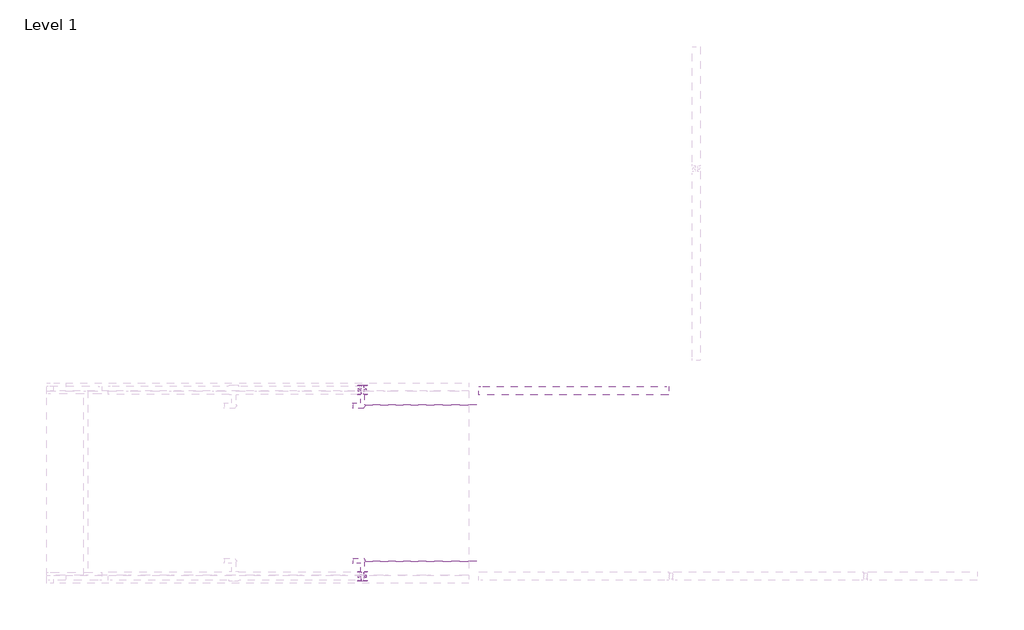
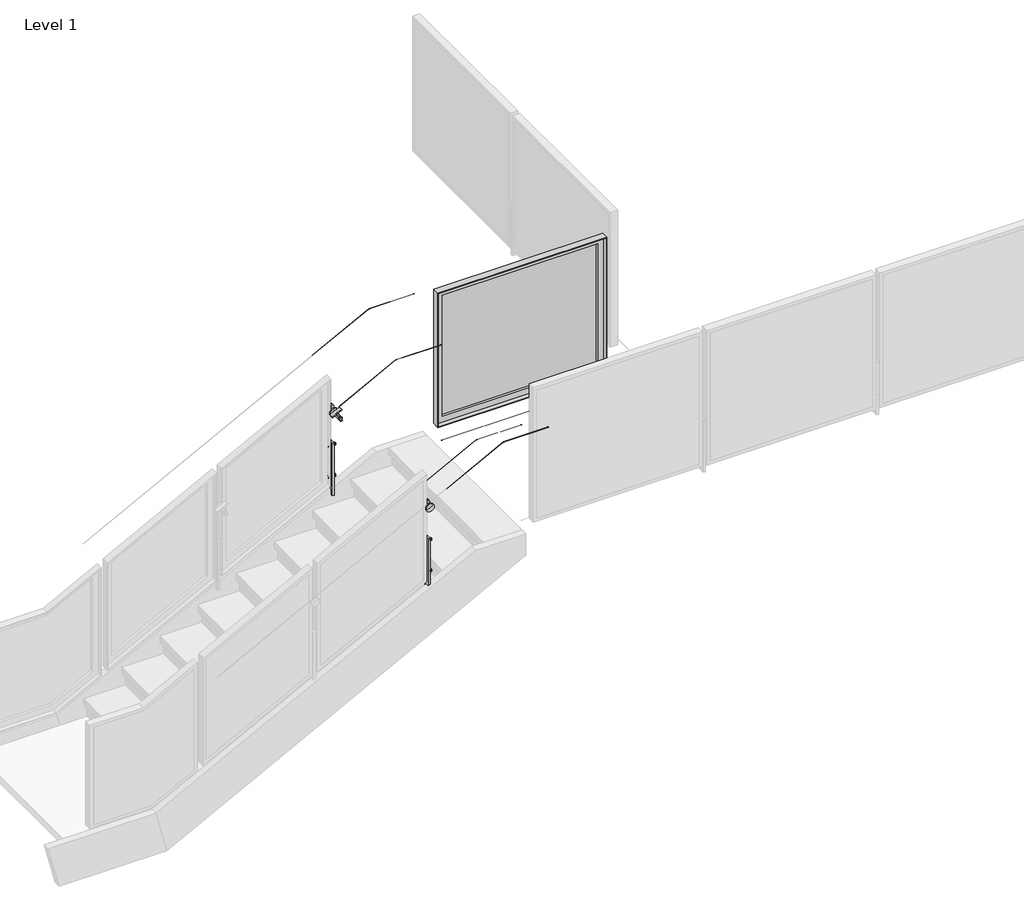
# One storey, part 11 of 37: 3 railings.
"""IFC4 building model written with IfcOpenShell, lengths in millimetres."""

from ifc_helpers import new_model, si_unit, point, frame, frame_2d, origin, place, context, project, spatial, polyline, circle_curve, ellipse_curve, trimmed, segment, composite_curve, outline, extrude, faceted_brep, element, save
from ifc_brep_helpers import plane_surface, cylinder_surface, advanced_brep

model = new_model("IFC4")

# Units and contexts
model_context = context("Model", 3, world=origin())
ifc_project = project(units=[si_unit("LENGTHUNIT", "METRE", prefix="MILLI")], contexts=[model_context])

# Site, building, storey
site = spatial("IfcSite", under=ifc_project)
building = spatial("IfcBuilding", under=site)
storey = spatial("IfcBuildingStorey", under=building, Name="Level 1", Elevation=0.0)

# Railings
placement = place(None, origin())
element("IfcRailing", 1, ObjectType="Metal-Panel-VIVA-FRAME-Slab-Top-Weld-Stairs-Landing-Upper", at=placement, inside=storey, context=model_context, shape_type="SolidModel", body=[
    advanced_brep(
    [(-8167.7837023, -31330.9915116, 3568.8839656), (-8167.7837023, -31330.4835116, 3568.8839656), (-7753.0192861, -31330.9915116, 3784.346), (-7753.0192861, -31330.4835116, 3784.346), (-7421.9837023, -31330.9915116, 3784.346), (-7421.9837023, -31330.4835116, 3784.346)],
    [
        (0, 1, ellipse_curve(frame((-8167.7837023, -31330.7375116, 3568.8839656), z_axis=(-1.0, 0.0, 0.0), x_axis=(0.0, 0.0, -0.9999999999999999)), 0.2862277, 0.254)),
        (1, 0, ellipse_curve(frame((-8167.7837023, -31330.7375116, 3568.8839656), z_axis=(-1.0, 0.0, 0.0), x_axis=(0.0, 0.0, -0.9999999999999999)), 0.2862277, 0.254)),
        (0, 2),
        (2, 3, ellipse_curve(frame((-7753.0192861, -31330.7375116, 3784.346), z_axis=(-0.9714436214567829, 0.0, -0.23727050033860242), x_axis=(0.2372705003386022, 0.0, -0.9714436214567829)), 0.2614665, 0.254)),
        (3, 1),
        (3, 2, ellipse_curve(frame((-7753.0192861, -31330.7375116, 3784.346), z_axis=(-0.9714436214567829, 0.0, -0.23727050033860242), x_axis=(0.2372705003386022, 0.0, -0.9714436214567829)), 0.2614665, 0.254)),
        (4, 5, circle_curve(frame((-7421.9837023, -31330.7375116, 3784.346), z_axis=(1.0, 0.0, 0.0), x_axis=(0.0, 1.0, 0.0)), 0.254)),
        (5, 4, circle_curve(frame((-7421.9837023, -31330.7375116, 3784.346), z_axis=(1.0, 0.0, 0.0), x_axis=(0.0, 1.0, 0.0)), 0.254)),
        (2, 4),
        (5, 3),
    ],
    [
        plane_surface(frame((-8167.7837023, -31330.7375116, 3569.1701933), z_axis=(-1.0, 0.0, 0.0), x_axis=(0.0, 1.0, 0.0))),
        cylinder_surface(frame((-8167.6666108, -31330.7375116, 3568.9447924), z_axis=(-0.8874054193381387, 0.0, -0.4609898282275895), x_axis=(0.0, 1.0, 0.0)), 0.254),
        plane_surface(frame((-7421.9837023, -31330.7375116, 3784.6), z_axis=(1.0, 0.0, 0.0), x_axis=(0.0, 1.0, 0.0))),
        cylinder_surface(frame((-7753.0813244, -31330.7375116, 3784.346), z_axis=(-1.0, 0.0, 0.0), x_axis=(0.0, 1.0, 0.0)), 0.254),
    ],
    [
        (0, [[1, 2]]),
        (1, [[-1, 3, 4, 5]]),
        (1, [[-2, -5, 6, -3]]),
        (2, [[7, 8]]),
        (3, [[-4, 9, -8, 10]]),
        (3, [[-6, -10, -7, -9]]),
    ],
),
    advanced_brep(
    [(-8167.7837023, -31672.7375116, 3759.106753), (-8167.7837023, -31671.7375116, 3759.106753), (-7752.9592018, -31672.7375116, 3974.6), (-7752.9592018, -31671.7375116, 3974.6), (-7421.9837023, -31672.7375116, 3974.6), (-7421.9837023, -31671.7375116, 3974.6)],
    [
        (0, 1, ellipse_curve(frame((-8167.7837023, -31672.2375116, 3759.106753), z_axis=(-1.0, 0.0, 0.0), x_axis=(0.0, 0.0, -0.9999999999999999)), 0.5634403, 0.5)),
        (1, 0, ellipse_curve(frame((-8167.7837023, -31672.2375116, 3759.106753), z_axis=(-1.0, 0.0, 0.0), x_axis=(0.0, 0.0, -0.9999999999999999)), 0.5634403, 0.5)),
        (0, 2),
        (2, 3, ellipse_curve(frame((-7752.9592018, -31672.2375116, 3974.6), z_axis=(-0.9714436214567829, 0.0, -0.23727050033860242), x_axis=(0.2372705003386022, 0.0, -0.9714436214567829)), 0.5146979, 0.5)),
        (3, 1),
        (3, 2, ellipse_curve(frame((-7752.9592018, -31672.2375116, 3974.6), z_axis=(-0.9714436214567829, 0.0, -0.23727050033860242), x_axis=(0.2372705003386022, 0.0, -0.9714436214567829)), 0.5146979, 0.5)),
        (4, 5, circle_curve(frame((-7421.9837023, -31672.2375116, 3974.6), z_axis=(1.0, 0.0, 0.0), x_axis=(0.0, 1.0, 0.0)), 0.5)),
        (5, 4, circle_curve(frame((-7421.9837023, -31672.2375116, 3974.6), z_axis=(1.0, 0.0, 0.0), x_axis=(0.0, 1.0, 0.0)), 0.5)),
        (2, 4),
        (5, 3),
    ],
    [
        plane_surface(frame((-8167.7837023, -31672.2375116, 3759.6701933), z_axis=(-1.0, 0.0, 0.0), x_axis=(0.0, 1.0, 0.0))),
        cylinder_surface(frame((-8167.5532074, -31672.2375116, 3759.2264906), z_axis=(-0.8874054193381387, 0.0, -0.4609898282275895), x_axis=(0.0, 1.0, 0.0)), 0.5),
        plane_surface(frame((-7421.9837023, -31672.2375116, 3975.1), z_axis=(1.0, 0.0, 0.0), x_axis=(0.0, 1.0, 0.0))),
        cylinder_surface(frame((-7753.0813244, -31672.2375116, 3974.6), z_axis=(-1.0, 0.0, 0.0), x_axis=(0.0, 1.0, 0.0)), 0.5),
    ],
    [
        (0, [[1, 2]]),
        (1, [[-1, 3, 4, 5]]),
        (1, [[-2, -5, 6, -3]]),
        (2, [[7, 8]]),
        (3, [[-4, 9, -8, 10]]),
        (3, [[-6, -10, -7, -9]]),
    ],
),
    extrude(outline(composite_curve([segment(polyline([(2.99974, 0.0), (0.0, 0.0)]), True, "CONTINUOUS"), segment(trimmed(circle_curve(frame_2d((-19.0451471, 0.0)), 19.0451471), [point((0.0, 0.0))], [point((-23.6280664, 18.4855208))], True, "CARTESIAN"), True, "CONTINUOUS"), segment(polyline([(-23.6280664, 18.4855208), (-24.3499073, 21.3971159)]), True, "CONTINUOUS"), segment(trimmed(circle_curve(frame_2d((-19.0451471, 0.0)), 22.0448871), [point((-24.3499073, 21.3971159))], [point((2.99974, 0.0))], False, "CARTESIAN"), True, "CONTINUOUS")], self_intersect=False)), frame((-8230.2714127, -31342.3593116, 3518.0219902), z_axis=(0.8874054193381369, 0.0, 0.4609898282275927), x_axis=(0.2840545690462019, -0.7876022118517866, -0.5468050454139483)), (0.0, 0.0, 1.0), 79.1184357),
    advanced_brep(
    [(-8155.3865246, -31327.3593116, 3459.6822264), (-8155.3865246, -31334.5030616, 3459.6822264), (-8155.3865246, -31320.2155616, 3459.6822264), (-8191.2457709, -31334.5030616, 3528.7112754), (-8191.2457709, -31327.3593116, 3528.7112754), (-8191.2457709, -31320.2155616, 3528.7112754)],
    [
        (0, 1),
        (1, 2, circle_curve(frame((-8155.3865246, -31327.3593116, 3459.6822264), z_axis=(0.4609898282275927, 0.0, -0.887405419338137), x_axis=(0.0, 1.0, 0.0)), 7.14375)),
        (2, 0),
        (3, 4),
        (4, 5),
        (5, 3, circle_curve(frame((-8191.2457709, -31327.3593116, 3528.7112754), z_axis=(-0.4609898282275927, 0.0, 0.887405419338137), x_axis=(0.0, 1.0, 0.0)), 7.14375)),
        (2, 1, circle_curve(frame((-8155.3865246, -31327.3593116, 3459.6822264), z_axis=(0.4609898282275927, 0.0, -0.887405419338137), x_axis=(0.0, 1.0, 0.0)), 7.14375)),
        (3, 5, circle_curve(frame((-8191.2457709, -31327.3593116, 3528.7112754), z_axis=(-0.4609898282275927, 0.0, 0.887405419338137), x_axis=(0.0, 1.0, 0.0)), 7.14375)),
        (1, 3),
        (5, 2),
    ],
    [
        plane_surface(frame((-8155.3865246, -31327.3593116, 3459.6822264), z_axis=(0.4609898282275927, 0.0, -0.887405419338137), x_axis=(0.0, 1.0, 0.0))),
        plane_surface(frame((-8191.2457709, -31327.3593116, 3528.7112754), z_axis=(-0.4609898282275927, 0.0, 0.887405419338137), x_axis=(0.0, 1.0, 0.0))),
        cylinder_surface(frame((-8038.4323248, -31327.3593116, 3234.5453916), z_axis=(0.4609898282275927, 0.0, -0.887405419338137), x_axis=(0.0, 1.0, 0.0)), 7.14375),
    ],
    [
        (0, [[1, 2, 3]]),
        (1, [[4, 5, 6]]),
        (0, [[-3, 7, -1]]),
        (1, [[-5, -4, 8]]),
        (2, [[9, -6, 10, -2]]),
        (2, [[-10, -8, -9, -7]]),
    ],
),
    advanced_brep(
    [(-8194.5500682, -31454.3593116, 3469.6421876), (-8173.4187267, -31454.3593116, 3480.6195079), (-8162.1486779, -31454.3593116, 3486.4740787), (-8141.0173363, -31454.3593116, 3497.451399), (-8194.5500682, -31462.2968116, 3469.6421876), (-8141.0173363, -31462.2968116, 3497.451399), (-8194.5500682, -31395.6218116, 3469.6421876), (-8179.0537511, -31395.6218116, 3477.6922225), (-8156.5136534, -31395.6218116, 3489.4013641), (-8141.0173363, -31395.6218116, 3497.451399), (-8194.5500682, -31403.5593116, 3469.6421876), (-8141.0173363, -31403.5593116, 3497.451399), (-8167.7837023, -31462.2968116, 3483.5467933), (-8179.0537511, -31316.2468116, 3477.6922225), (-8167.7837023, -31316.2468116, 3483.5467933), (-8156.5136534, -31316.2468116, 3489.4013641), (-8173.4187267, -31403.5593116, 3480.6195079), (-8162.1486779, -31403.5593116, 3486.4740787)],
    [
        (0, 1),
        (1, 2, circle_curve(frame((-8167.7837023, -31454.3593116, 3483.5467933), z_axis=(0.0, -1.0, 0.0), x_axis=(0.8874054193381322, 0.0, 0.4609898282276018)), 6.35)),
        (2, 3),
        (3, 0, circle_curve(frame((-8167.7837023, -31454.3593116, 3483.5467933), z_axis=(0.0, 1.0, 0.0), x_axis=(0.8874054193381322, 0.0, 0.4609898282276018)), 30.1625)),
        (4, 0),
        (3, 5),
        (5, 4, circle_curve(frame((-8167.7837023, -31462.2968116, 3483.5467933), z_axis=(0.0, 1.0, 0.0), x_axis=(0.8874054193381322, 0.0, 0.4609898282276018)), 30.1625)),
        (6, 7),
        (7, 8, circle_curve(frame((-8167.7837023, -31395.6218116, 3483.5467933), z_axis=(0.0, -1.0, 0.0), x_axis=(0.8874054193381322, 0.0, 0.4609898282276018)), 12.7)),
        (8, 9),
        (9, 6, circle_curve(frame((-8167.7837023, -31395.6218116, 3483.5467933), z_axis=(0.0, 1.0, 0.0), x_axis=(0.8874054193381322, 0.0, 0.4609898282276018)), 30.1625)),
        (10, 6),
        (9, 11),
        (11, 10, circle_curve(frame((-8167.7837023, -31403.5593116, 3483.5467933), z_axis=(0.0, 1.0, 0.0), x_axis=(0.8874054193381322, 0.0, 0.4609898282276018)), 30.1625)),
        (3, 0, circle_curve(frame((-8167.7837023, -31454.3593116, 3483.5467933), z_axis=(0.0, -1.0, 0.0), x_axis=(0.8874054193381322, 0.0, 0.4609898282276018)), 30.1625)),
        (4, 5, circle_curve(frame((-8167.7837023, -31462.2968116, 3483.5467933), z_axis=(0.0, 1.0, 0.0), x_axis=(0.8874054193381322, 0.0, 0.4609898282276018)), 30.1625)),
        (12, 4),
        (5, 12),
        (13, 14),
        (14, 15),
        (15, 13, circle_curve(frame((-8167.7837023, -31316.2468116, 3483.5467933), z_axis=(0.0, 1.0, 0.0), x_axis=(0.8874054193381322, 0.0, 0.4609898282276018)), 12.7)),
        (13, 15, circle_curve(frame((-8167.7837023, -31316.2468116, 3483.5467933), z_axis=(0.0, 1.0, 0.0), x_axis=(0.8874054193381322, 0.0, 0.4609898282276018)), 12.7)),
        (7, 13),
        (15, 8),
        (7, 8, circle_curve(frame((-8167.7837023, -31395.6218116, 3483.5467933), z_axis=(0.0, 1.0, 0.0), x_axis=(0.8874054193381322, 0.0, 0.4609898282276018)), 12.7)),
        (6, 9, circle_curve(frame((-8167.7837023, -31395.6218116, 3483.5467933), z_axis=(0.0, 1.0, 0.0), x_axis=(0.8874054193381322, 0.0, 0.4609898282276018)), 30.1625)),
        (10, 11, circle_curve(frame((-8167.7837023, -31403.5593116, 3483.5467933), z_axis=(0.0, 1.0, 0.0), x_axis=(0.8874054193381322, 0.0, 0.4609898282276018)), 30.1625)),
        (16, 10),
        (11, 17),
        (17, 16, circle_curve(frame((-8167.7837023, -31403.5593116, 3483.5467933), z_axis=(0.0, 1.0, 0.0), x_axis=(0.8874054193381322, 0.0, 0.4609898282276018)), 6.35)),
        (16, 17, circle_curve(frame((-8167.7837023, -31403.5593116, 3483.5467933), z_axis=(0.0, 1.0, 0.0), x_axis=(0.8874054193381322, 0.0, 0.4609898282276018)), 6.35)),
        (1, 16),
        (17, 2),
        (1, 2, circle_curve(frame((-8167.7837023, -31454.3593116, 3483.5467933), z_axis=(0.0, 1.0, 0.0), x_axis=(0.8874054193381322, 0.0, 0.4609898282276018)), 6.35)),
    ],
    [
        plane_surface(frame((-8167.7837023, -31454.3593116, 3483.5467933), z_axis=(0.0, 1.0, 0.0), x_axis=(0.8874054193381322, 0.0, 0.4609898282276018))),
        cylinder_surface(frame((-8167.7837023, -32927.5593116, 3483.5467933), z_axis=(0.0, -1.0, 0.0), x_axis=(0.8874054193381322, 0.0, 0.4609898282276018)), 30.1625),
        plane_surface(frame((-8167.7837023, -31395.6218116, 3483.5467933), z_axis=(0.0, 1.0, 0.0), x_axis=(0.8874054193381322, 0.0, 0.4609898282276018))),
        plane_surface(frame((-8167.7837023, -31462.2968116, 3483.5467933), z_axis=(0.0, -1.0, 0.0), x_axis=(0.8874054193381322, 0.0, 0.4609898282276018))),
        plane_surface(frame((-8167.7837023, -31316.2468116, 3483.5467933), z_axis=(0.0, 1.0, 0.0), x_axis=(0.8874054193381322, 0.0, 0.4609898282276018))),
        cylinder_surface(frame((-8167.7837023, -32927.5593116, 3483.5467933), z_axis=(0.0, -1.0, 0.0), x_axis=(0.8874054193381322, 0.0, 0.4609898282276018)), 12.7),
        plane_surface(frame((-8167.7837023, -31403.5593116, 3483.5467933), z_axis=(0.0, -1.0, 0.0), x_axis=(0.8874054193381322, 0.0, 0.4609898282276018))),
        cylinder_surface(frame((-8167.7837023, -32927.5593116, 3483.5467933), z_axis=(0.0, -1.0, 0.0), x_axis=(0.8874054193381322, 0.0, 0.4609898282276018)), 6.35),
    ],
    [
        (0, [[1, 2, 3, 4]]),
        (1, [[5, -4, 6, 7]]),
        (2, [[8, 9, 10, 11]]),
        (1, [[12, -11, 13, 14]]),
        (1, [[-6, 15, -5, 16]]),
        (3, [[17, -7, 18]]),
        (3, [[-18, -16, -17]]),
        (4, [[19, 20, 21]]),
        (4, [[-20, -19, 22]]),
        (5, [[23, -21, 24, -9]]),
        (5, [[-24, -22, -23, 25]]),
        (2, [[-10, -25, -8, 26]]),
        (1, [[-13, -26, -12, 27]]),
        (6, [[28, -14, 29, 30]]),
        (6, [[-29, -27, -28, 31]]),
        (7, [[32, -30, 33, -2]]),
        (7, [[-33, -31, -32, 34]]),
        (0, [[-3, -34, -1, -15]]),
    ],
),
    advanced_brep(
    [(-8193.9711023, -31428.9593116, 2962.7197933), (-8193.9711023, -31428.9593116, 2981.8205933), (-8193.9711023, -31428.9593116, 2972.2701933), (-8189.1959023, -31428.9593116, 2962.7197933), (-8189.1959023, -31428.9593116, 2981.8205933), (-8189.1959023, -31428.9593116, 2967.4949933), (-8189.1959023, -31428.9593116, 2977.0453933), (-8146.3715023, -31428.9593116, 2967.4949933), (-8146.3715023, -31428.9593116, 2977.0453933), (-8146.3715023, -31428.9593116, 2962.7197933), (-8146.3715023, -31428.9593116, 2981.8205933), (-8141.5963023, -31428.9593116, 2962.7197933), (-8141.5963023, -31428.9593116, 2981.8205933), (-8141.5963023, -31428.9593116, 2972.2701933)],
    [
        (0, 1, circle_curve(frame((-8193.9711023, -31428.9593116, 2972.2701933), z_axis=(-1.0, 0.0, 0.0), x_axis=(0.0, 0.0, 1.0)), 9.5504)),
        (1, 2),
        (2, 0),
        (1, 0, circle_curve(frame((-8193.9711023, -31428.9593116, 2972.2701933), z_axis=(-1.0, 0.0, 0.0), x_axis=(0.0, 0.0, 1.0)), 9.5504)),
        (3, 4, circle_curve(frame((-8189.1959023, -31428.9593116, 2972.2701933), z_axis=(-1.0, 0.0, 0.0), x_axis=(0.0, 0.0, 1.0)), 9.5504)),
        (4, 1),
        (0, 3),
        (4, 3, circle_curve(frame((-8189.1959023, -31428.9593116, 2972.2701933), z_axis=(-1.0, 0.0, 0.0), x_axis=(0.0, 0.0, 1.0)), 9.5504)),
        (5, 6, circle_curve(frame((-8189.1959023, -31428.9593116, 2972.2701933), z_axis=(-1.0, 0.0, 0.0), x_axis=(0.0, 0.0, 1.0)), 4.7752)),
        (6, 4),
        (3, 5),
        (6, 5, circle_curve(frame((-8189.1959023, -31428.9593116, 2972.2701933), z_axis=(-1.0, 0.0, 0.0), x_axis=(0.0, 0.0, 1.0)), 4.7752)),
        (7, 8, circle_curve(frame((-8146.3715023, -31428.9593116, 2972.2701933), z_axis=(-1.0, 0.0, 0.0), x_axis=(0.0, 0.0, 1.0)), 4.7752)),
        (8, 6),
        (5, 7),
        (8, 7, circle_curve(frame((-8146.3715023, -31428.9593116, 2972.2701933), z_axis=(-1.0, 0.0, 0.0), x_axis=(0.0, 0.0, 1.0)), 4.7752)),
        (9, 10, circle_curve(frame((-8146.3715023, -31428.9593116, 2972.2701933), z_axis=(-1.0, 0.0, 0.0), x_axis=(0.0, 0.0, 1.0)), 9.5504)),
        (10, 8),
        (7, 9),
        (10, 9, circle_curve(frame((-8146.3715023, -31428.9593116, 2972.2701933), z_axis=(-1.0, 0.0, 0.0), x_axis=(0.0, 0.0, 1.0)), 9.5504)),
        (11, 12, circle_curve(frame((-8141.5963023, -31428.9593116, 2972.2701933), z_axis=(-1.0, 0.0, 0.0), x_axis=(0.0, 0.0, 1.0)), 9.5504)),
        (12, 10),
        (9, 11),
        (12, 11, circle_curve(frame((-8141.5963023, -31428.9593116, 2972.2701933), z_axis=(-1.0, 0.0, 0.0), x_axis=(0.0, 0.0, 1.0)), 9.5504)),
        (13, 12),
        (11, 13),
    ],
    [
        plane_surface(frame((-8193.9711023, -31428.9593116, 2972.2701933), z_axis=(-1.0, 0.0, 0.0), x_axis=(0.0, 0.0, 1.0))),
        cylinder_surface(frame((-11585.5514594, -31428.9593116, 2972.2701933), z_axis=(1.0, 0.0, 0.0), x_axis=(0.0, 0.0, 1.0)), 9.5504),
        plane_surface(frame((-8189.1959023, -31428.9593116, 2972.2701933), z_axis=(1.0, 0.0, 0.0), x_axis=(0.0, 0.0, 1.0))),
        cylinder_surface(frame((-11585.5514594, -31428.9593116, 2972.2701933), z_axis=(1.0, 0.0, 0.0), x_axis=(0.0, 0.0, 1.0)), 4.7752),
        plane_surface(frame((-8146.3715023, -31428.9593116, 2972.2701933), z_axis=(-1.0, 0.0, 0.0), x_axis=(0.0, 0.0, 1.0))),
        plane_surface(frame((-8141.5963023, -31428.9593116, 2972.2701933), z_axis=(1.0, 0.0, 0.0), x_axis=(0.0, 0.0, 1.0))),
    ],
    [
        (0, [[1, 2, 3]]),
        (0, [[4, -3, -2]]),
        (1, [[5, 6, -1, 7]]),
        (1, [[8, -7, -4, -6]]),
        (2, [[9, 10, -5, 11]]),
        (2, [[12, -11, -8, -10]]),
        (3, [[13, 14, -9, 15]]),
        (3, [[16, -15, -12, -14]]),
        (4, [[17, 18, -13, 19]]),
        (4, [[20, -19, -16, -18]]),
        (1, [[21, 22, -17, 23]]),
        (1, [[24, -23, -20, -22]]),
        (5, [[25, -21, 26]]),
        (5, [[-26, -24, -25]]),
    ],
),
    advanced_brep(
    [(-8193.9711023, -31428.9593116, 3204.0197933), (-8193.9711023, -31428.9593116, 3223.1205933), (-8193.9711023, -31428.9593116, 3213.5701933), (-8189.1959023, -31428.9593116, 3204.0197933), (-8189.1959023, -31428.9593116, 3223.1205933), (-8189.1959023, -31428.9593116, 3208.7949933), (-8189.1959023, -31428.9593116, 3218.3453933), (-8146.3715023, -31428.9593116, 3208.7949933), (-8146.3715023, -31428.9593116, 3218.3453933), (-8146.3715023, -31428.9593116, 3204.0197933), (-8146.3715023, -31428.9593116, 3223.1205933), (-8141.5963023, -31428.9593116, 3204.0197933), (-8141.5963023, -31428.9593116, 3223.1205933), (-8141.5963023, -31428.9593116, 3213.5701933)],
    [
        (0, 1, circle_curve(frame((-8193.9711023, -31428.9593116, 3213.5701933), z_axis=(-1.0, 0.0, 0.0), x_axis=(0.0, 0.0, 1.0)), 9.5504)),
        (1, 2),
        (2, 0),
        (1, 0, circle_curve(frame((-8193.9711023, -31428.9593116, 3213.5701933), z_axis=(-1.0, 0.0, 0.0), x_axis=(0.0, 0.0, 1.0)), 9.5504)),
        (3, 4, circle_curve(frame((-8189.1959023, -31428.9593116, 3213.5701933), z_axis=(-1.0, 0.0, 0.0), x_axis=(0.0, 0.0, 1.0)), 9.5504)),
        (4, 1),
        (0, 3),
        (4, 3, circle_curve(frame((-8189.1959023, -31428.9593116, 3213.5701933), z_axis=(-1.0, 0.0, 0.0), x_axis=(0.0, 0.0, 1.0)), 9.5504)),
        (5, 6, circle_curve(frame((-8189.1959023, -31428.9593116, 3213.5701933), z_axis=(-1.0, 0.0, 0.0), x_axis=(0.0, 0.0, 1.0)), 4.7752)),
        (6, 4),
        (3, 5),
        (6, 5, circle_curve(frame((-8189.1959023, -31428.9593116, 3213.5701933), z_axis=(-1.0, 0.0, 0.0), x_axis=(0.0, 0.0, 1.0)), 4.7752)),
        (7, 8, circle_curve(frame((-8146.3715023, -31428.9593116, 3213.5701933), z_axis=(-1.0, 0.0, 0.0), x_axis=(0.0, 0.0, 1.0)), 4.7752)),
        (8, 6),
        (5, 7),
        (8, 7, circle_curve(frame((-8146.3715023, -31428.9593116, 3213.5701933), z_axis=(-1.0, 0.0, 0.0), x_axis=(0.0, 0.0, 1.0)), 4.7752)),
        (9, 10, circle_curve(frame((-8146.3715023, -31428.9593116, 3213.5701933), z_axis=(-1.0, 0.0, 0.0), x_axis=(0.0, 0.0, 1.0)), 9.5504)),
        (10, 8),
        (7, 9),
        (10, 9, circle_curve(frame((-8146.3715023, -31428.9593116, 3213.5701933), z_axis=(-1.0, 0.0, 0.0), x_axis=(0.0, 0.0, 1.0)), 9.5504)),
        (11, 12, circle_curve(frame((-8141.5963023, -31428.9593116, 3213.5701933), z_axis=(-1.0, 0.0, 0.0), x_axis=(0.0, 0.0, 1.0)), 9.5504)),
        (12, 10),
        (9, 11),
        (12, 11, circle_curve(frame((-8141.5963023, -31428.9593116, 3213.5701933), z_axis=(-1.0, 0.0, 0.0), x_axis=(0.0, 0.0, 1.0)), 9.5504)),
        (13, 12),
        (11, 13),
    ],
    [
        plane_surface(frame((-8193.9711023, -31428.9593116, 3213.5701933), z_axis=(-1.0, 0.0, 0.0), x_axis=(0.0, 0.0, 1.0))),
        cylinder_surface(frame((-11585.5514594, -31428.9593116, 3213.5701933), z_axis=(1.0, 0.0, 0.0), x_axis=(0.0, 0.0, 1.0)), 9.5504),
        plane_surface(frame((-8189.1959023, -31428.9593116, 3213.5701933), z_axis=(1.0, 0.0, 0.0), x_axis=(0.0, 0.0, 1.0))),
        cylinder_surface(frame((-11585.5514594, -31428.9593116, 3213.5701933), z_axis=(1.0, 0.0, 0.0), x_axis=(0.0, 0.0, 1.0)), 4.7752),
        plane_surface(frame((-8146.3715023, -31428.9593116, 3213.5701933), z_axis=(-1.0, 0.0, 0.0), x_axis=(0.0, 0.0, 1.0))),
        plane_surface(frame((-8141.5963023, -31428.9593116, 3213.5701933), z_axis=(1.0, 0.0, 0.0), x_axis=(0.0, 0.0, 1.0))),
    ],
    [
        (0, [[1, 2, 3]]),
        (0, [[4, -3, -2]]),
        (1, [[5, 6, -1, 7]]),
        (1, [[8, -7, -4, -6]]),
        (2, [[9, 10, -5, 11]]),
        (2, [[12, -11, -8, -10]]),
        (3, [[13, 14, -9, 15]]),
        (3, [[16, -15, -12, -14]]),
        (4, [[17, 18, -13, 19]]),
        (4, [[20, -19, -16, -18]]),
        (1, [[21, 22, -17, 23]]),
        (1, [[24, -23, -20, -22]]),
        (5, [[25, -21, 26]]),
        (5, [[-26, -24, -25]]),
    ],
),
    extrude(outline(polyline([(-8175.7232939, -31406.7343116), (-8159.8441106, -31406.7343116), (-8159.8441106, -31451.1843116), (-8175.7232939, -31451.1843116), (-8175.7232939, -31406.7343116)])), frame((0.0, 0.0, 2832.5701933), z_axis=(0.0, 0.0, 1.0), x_axis=(1.0, 0.0, 0.0)), (0.0, 0.0, 1.0), 406.4),
])
element("IfcRailing", 2, ObjectType="Metal-Panel-VIVA-FRAME-Slab-Top-Weld-Stairs-Landing-Upper", at=placement, inside=storey, context=model_context, shape_type="SolidModel", body=[
    advanced_brep(
    [(-8167.7837023, -30310.0032776, 3568.8839656), (-8167.7837023, -30309.4952776, 3568.8839656), (-7753.0192861, -30310.0032776, 3784.346), (-7753.0192861, -30309.4952776, 3784.346), (-7421.9837023, -30310.0032776, 3784.346), (-7421.9837023, -30309.4952776, 3784.346)],
    [
        (0, 1, ellipse_curve(frame((-8167.7837023, -30309.7492776, 3568.8839656), z_axis=(-1.0, 0.0, 0.0), x_axis=(0.0, 0.0, -0.9999999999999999)), 0.2862277, 0.254)),
        (1, 0, ellipse_curve(frame((-8167.7837023, -30309.7492776, 3568.8839656), z_axis=(-1.0, 0.0, 0.0), x_axis=(0.0, 0.0, -0.9999999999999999)), 0.2862277, 0.254)),
        (0, 2),
        (2, 3, ellipse_curve(frame((-7753.0192861, -30309.7492776, 3784.346), z_axis=(-0.9714436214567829, 0.0, -0.23727050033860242), x_axis=(0.2372705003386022, 0.0, -0.9714436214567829)), 0.2614665, 0.254)),
        (3, 1),
        (3, 2, ellipse_curve(frame((-7753.0192861, -30309.7492776, 3784.346), z_axis=(-0.9714436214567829, 0.0, -0.23727050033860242), x_axis=(0.2372705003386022, 0.0, -0.9714436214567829)), 0.2614665, 0.254)),
        (4, 5, circle_curve(frame((-7421.9837023, -30309.7492776, 3784.346), z_axis=(1.0, 0.0, 0.0), x_axis=(0.0, 1.0, 0.0)), 0.254)),
        (5, 4, circle_curve(frame((-7421.9837023, -30309.7492776, 3784.346), z_axis=(1.0, 0.0, 0.0), x_axis=(0.0, 1.0, 0.0)), 0.254)),
        (2, 4),
        (5, 3),
    ],
    [
        plane_surface(frame((-8167.7837023, -30309.7492776, 3569.1701933), z_axis=(-1.0, 0.0, 0.0), x_axis=(0.0, 1.0, 0.0))),
        cylinder_surface(frame((-8167.6666108, -30309.7492776, 3568.9447924), z_axis=(-0.8874054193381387, 0.0, -0.4609898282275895), x_axis=(0.0, 1.0, 0.0)), 0.254),
        plane_surface(frame((-7421.9837023, -30309.7492776, 3784.6), z_axis=(1.0, 0.0, 0.0), x_axis=(0.0, 1.0, 0.0))),
        cylinder_surface(frame((-7753.0813244, -30309.7492776, 3784.346), z_axis=(-1.0, 0.0, 0.0), x_axis=(0.0, 1.0, 0.0)), 0.254),
    ],
    [
        (0, [[1, 2]]),
        (1, [[-1, 3, 4, 5]]),
        (1, [[-2, -5, 6, -3]]),
        (2, [[7, 8]]),
        (3, [[-4, 9, -8, 10]]),
        (3, [[-6, -10, -7, -9]]),
    ],
),
    advanced_brep(
    [(-8167.7837023, -29968.7492776, 3759.106753), (-8167.7837023, -29967.7492776, 3759.106753), (-7752.9592018, -29968.7492776, 3974.6), (-7752.9592018, -29967.7492776, 3974.6), (-7421.9837023, -29968.7492776, 3974.6), (-7421.9837023, -29967.7492776, 3974.6)],
    [
        (0, 1, ellipse_curve(frame((-8167.7837023, -29968.2492776, 3759.106753), z_axis=(-1.0, 0.0, 0.0), x_axis=(0.0, 0.0, -0.9999999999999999)), 0.5634403, 0.5)),
        (1, 0, ellipse_curve(frame((-8167.7837023, -29968.2492776, 3759.106753), z_axis=(-1.0, 0.0, 0.0), x_axis=(0.0, 0.0, -0.9999999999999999)), 0.5634403, 0.5)),
        (0, 2),
        (2, 3, ellipse_curve(frame((-7752.9592018, -29968.2492776, 3974.6), z_axis=(-0.9714436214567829, 0.0, -0.23727050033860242), x_axis=(0.2372705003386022, 0.0, -0.9714436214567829)), 0.5146979, 0.5)),
        (3, 1),
        (3, 2, ellipse_curve(frame((-7752.9592018, -29968.2492776, 3974.6), z_axis=(-0.9714436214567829, 0.0, -0.23727050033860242), x_axis=(0.2372705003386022, 0.0, -0.9714436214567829)), 0.5146979, 0.5)),
        (4, 5, circle_curve(frame((-7421.9837023, -29968.2492776, 3974.6), z_axis=(1.0, 0.0, 0.0), x_axis=(0.0, 1.0, 0.0)), 0.5)),
        (5, 4, circle_curve(frame((-7421.9837023, -29968.2492776, 3974.6), z_axis=(1.0, 0.0, 0.0), x_axis=(0.0, 1.0, 0.0)), 0.5)),
        (2, 4),
        (5, 3),
    ],
    [
        plane_surface(frame((-8167.7837023, -29968.2492776, 3759.6701933), z_axis=(-1.0, 0.0, 0.0), x_axis=(0.0, 1.0, 0.0))),
        cylinder_surface(frame((-8167.5532074, -29968.2492776, 3759.2264906), z_axis=(-0.8874054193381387, 0.0, -0.4609898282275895), x_axis=(0.0, 1.0, 0.0)), 0.5),
        plane_surface(frame((-7421.9837023, -29968.2492776, 3975.1), z_axis=(1.0, 0.0, 0.0), x_axis=(0.0, 1.0, 0.0))),
        cylinder_surface(frame((-7753.0813244, -29968.2492776, 3974.6), z_axis=(-1.0, 0.0, 0.0), x_axis=(0.0, 1.0, 0.0)), 0.5),
    ],
    [
        (0, [[1, 2]]),
        (1, [[-1, 3, 4, 5]]),
        (1, [[-2, -5, 6, -3]]),
        (2, [[7, 8]]),
        (3, [[-4, 9, -8, 10]]),
        (3, [[-6, -10, -7, -9]]),
    ],
),
    extrude(outline(composite_curve([segment(trimmed(circle_curve(frame_2d((-19.0451471, 0.0)), 22.0448871), [point((2.99974, 0.0))], [point((-24.3499073, -21.3971159))], False, "CARTESIAN"), True, "CONTINUOUS"), segment(polyline([(-24.3499073, -21.3971159), (-23.6280664, -18.4855208)]), True, "CONTINUOUS"), segment(trimmed(circle_curve(frame_2d((-19.0451471, 0.0)), 19.0451471), [point((-23.6280664, -18.4855208))], [point((0.0, 0.0))], True, "CARTESIAN"), True, "CONTINUOUS"), segment(polyline([(0.0, 0.0), (2.99974, 0.0)]), True, "CONTINUOUS")], self_intersect=False)), frame((-8230.2714127, -30298.1274776, 3518.0219902), z_axis=(0.8874054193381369, 0.0, 0.4609898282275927), x_axis=(0.2840545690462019, 0.7876022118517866, -0.5468050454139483)), (0.0, 0.0, 1.0), 79.1184357),
    advanced_brep(
    [(-8155.3865246, -30313.1274776, 3459.6822264), (-8155.3865246, -30320.2712276, 3459.6822264), (-8155.3865246, -30305.9837276, 3459.6822264), (-8191.2457709, -30305.9837276, 3528.7112754), (-8191.2457709, -30320.2712276, 3528.7112754), (-8191.2457709, -30313.1274776, 3528.7112754)],
    [
        (0, 1),
        (1, 2, circle_curve(frame((-8155.3865246, -30313.1274776, 3459.6822264), z_axis=(0.4609898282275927, 0.0, -0.887405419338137), x_axis=(0.0, -1.0, 0.0)), 7.14375)),
        (2, 0),
        (3, 4, circle_curve(frame((-8191.2457709, -30313.1274776, 3528.7112754), z_axis=(-0.4609898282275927, 0.0, 0.887405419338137), x_axis=(0.0, -1.0, 0.0)), 7.14375)),
        (4, 5),
        (5, 3),
        (2, 1, circle_curve(frame((-8155.3865246, -30313.1274776, 3459.6822264), z_axis=(0.4609898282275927, 0.0, -0.887405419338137), x_axis=(0.0, -1.0, 0.0)), 7.14375)),
        (4, 3, circle_curve(frame((-8191.2457709, -30313.1274776, 3528.7112754), z_axis=(-0.4609898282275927, 0.0, 0.887405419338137), x_axis=(0.0, -1.0, 0.0)), 7.14375)),
        (1, 4),
        (3, 2),
    ],
    [
        plane_surface(frame((-8155.3865246, -30313.1274776, 3459.6822264), z_axis=(0.4609898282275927, 0.0, -0.887405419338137), x_axis=(0.0, -1.0, 0.0))),
        plane_surface(frame((-8191.2457709, -30313.1274776, 3528.7112754), z_axis=(-0.4609898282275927, 0.0, 0.887405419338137), x_axis=(0.0, -1.0, 0.0))),
        cylinder_surface(frame((-8038.4323248, -30313.1274776, 3234.5453916), z_axis=(0.4609898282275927, 0.0, -0.887405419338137), x_axis=(0.0, -1.0, 0.0)), 7.14375),
    ],
    [
        (0, [[1, 2, 3]]),
        (1, [[4, 5, 6]]),
        (0, [[-3, 7, -1]]),
        (1, [[8, -6, -5]]),
        (2, [[-2, 9, -4, 10]]),
        (2, [[-7, -10, -8, -9]]),
    ],
),
    advanced_brep(
    [(-8194.5500682, -30186.1274776, 3469.6421876), (-8141.0173363, -30186.1274776, 3497.451399), (-8162.1486779, -30186.1274776, 3486.4740787), (-8173.4187267, -30186.1274776, 3480.6195079), (-8194.5500682, -30178.1899776, 3469.6421876), (-8141.0173363, -30178.1899776, 3497.451399), (-8194.5500682, -30244.8649776, 3469.6421876), (-8141.0173363, -30244.8649776, 3497.451399), (-8156.5136534, -30244.8649776, 3489.4013641), (-8179.0537511, -30244.8649776, 3477.6922225), (-8194.5500682, -30236.9274776, 3469.6421876), (-8141.0173363, -30236.9274776, 3497.451399), (-8167.7837023, -30178.1899776, 3483.5467933), (-8179.0537511, -30324.2399776, 3477.6922225), (-8156.5136534, -30324.2399776, 3489.4013641), (-8167.7837023, -30324.2399776, 3483.5467933), (-8173.4187267, -30236.9274776, 3480.6195079), (-8162.1486779, -30236.9274776, 3486.4740787)],
    [
        (0, 1, circle_curve(frame((-8167.7837023, -30186.1274776, 3483.5467933), z_axis=(0.0, -1.0, 0.0), x_axis=(0.8874054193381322, 0.0, 0.4609898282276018)), 30.1625)),
        (1, 2),
        (2, 3, circle_curve(frame((-8167.7837023, -30186.1274776, 3483.5467933), z_axis=(0.0, 1.0, 0.0), x_axis=(0.8874054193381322, 0.0, 0.4609898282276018)), 6.35)),
        (3, 0),
        (4, 5, circle_curve(frame((-8167.7837023, -30178.1899776, 3483.5467933), z_axis=(0.0, -1.0, 0.0), x_axis=(0.8874054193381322, 0.0, 0.4609898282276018)), 30.1625)),
        (5, 1),
        (0, 4),
        (6, 7, circle_curve(frame((-8167.7837023, -30244.8649776, 3483.5467933), z_axis=(0.0, -1.0, 0.0), x_axis=(0.8874054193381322, 0.0, 0.4609898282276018)), 30.1625)),
        (7, 8),
        (8, 9, circle_curve(frame((-8167.7837023, -30244.8649776, 3483.5467933), z_axis=(0.0, 1.0, 0.0), x_axis=(0.8874054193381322, 0.0, 0.4609898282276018)), 12.7)),
        (9, 6),
        (10, 11, circle_curve(frame((-8167.7837023, -30236.9274776, 3483.5467933), z_axis=(0.0, -1.0, 0.0), x_axis=(0.8874054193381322, 0.0, 0.4609898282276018)), 30.1625)),
        (11, 7),
        (6, 10),
        (5, 4, circle_curve(frame((-8167.7837023, -30178.1899776, 3483.5467933), z_axis=(0.0, -1.0, 0.0), x_axis=(0.8874054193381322, 0.0, 0.4609898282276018)), 30.1625)),
        (0, 1, circle_curve(frame((-8167.7837023, -30186.1274776, 3483.5467933), z_axis=(0.0, 1.0, 0.0), x_axis=(0.8874054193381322, 0.0, 0.4609898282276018)), 30.1625)),
        (12, 5),
        (4, 12),
        (13, 14, circle_curve(frame((-8167.7837023, -30324.2399776, 3483.5467933), z_axis=(0.0, -1.0, 0.0), x_axis=(0.8874054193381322, 0.0, 0.4609898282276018)), 12.7)),
        (14, 15),
        (15, 13),
        (14, 13, circle_curve(frame((-8167.7837023, -30324.2399776, 3483.5467933), z_axis=(0.0, -1.0, 0.0), x_axis=(0.8874054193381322, 0.0, 0.4609898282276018)), 12.7)),
        (8, 14),
        (13, 9),
        (8, 9, circle_curve(frame((-8167.7837023, -30244.8649776, 3483.5467933), z_axis=(0.0, -1.0, 0.0), x_axis=(0.8874054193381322, 0.0, 0.4609898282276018)), 12.7)),
        (7, 6, circle_curve(frame((-8167.7837023, -30244.8649776, 3483.5467933), z_axis=(0.0, -1.0, 0.0), x_axis=(0.8874054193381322, 0.0, 0.4609898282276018)), 30.1625)),
        (11, 10, circle_curve(frame((-8167.7837023, -30236.9274776, 3483.5467933), z_axis=(0.0, -1.0, 0.0), x_axis=(0.8874054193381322, 0.0, 0.4609898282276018)), 30.1625)),
        (16, 17, circle_curve(frame((-8167.7837023, -30236.9274776, 3483.5467933), z_axis=(0.0, -1.0, 0.0), x_axis=(0.8874054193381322, 0.0, 0.4609898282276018)), 6.35)),
        (17, 11),
        (10, 16),
        (17, 16, circle_curve(frame((-8167.7837023, -30236.9274776, 3483.5467933), z_axis=(0.0, -1.0, 0.0), x_axis=(0.8874054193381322, 0.0, 0.4609898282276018)), 6.35)),
        (2, 17),
        (16, 3),
        (2, 3, circle_curve(frame((-8167.7837023, -30186.1274776, 3483.5467933), z_axis=(0.0, -1.0, 0.0), x_axis=(0.8874054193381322, 0.0, 0.4609898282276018)), 6.35)),
    ],
    [
        plane_surface(frame((-8167.7837023, -30186.1274776, 3483.5467933), z_axis=(0.0, -1.0, 0.0), x_axis=(0.8874054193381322, 0.0, 0.4609898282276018))),
        cylinder_surface(frame((-8167.7837023, -28712.9274776, 3483.5467933), z_axis=(0.0, 1.0, 0.0), x_axis=(0.8874054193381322, 0.0, 0.4609898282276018)), 30.1625),
        plane_surface(frame((-8167.7837023, -30244.8649776, 3483.5467933), z_axis=(0.0, -1.0, 0.0), x_axis=(0.8874054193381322, 0.0, 0.4609898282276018))),
        plane_surface(frame((-8167.7837023, -30178.1899776, 3483.5467933), z_axis=(0.0, 1.0, 0.0), x_axis=(0.8874054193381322, 0.0, 0.4609898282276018))),
        plane_surface(frame((-8167.7837023, -30324.2399776, 3483.5467933), z_axis=(0.0, -1.0, 0.0), x_axis=(0.8874054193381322, 0.0, 0.4609898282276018))),
        cylinder_surface(frame((-8167.7837023, -28712.9274776, 3483.5467933), z_axis=(0.0, 1.0, 0.0), x_axis=(0.8874054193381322, 0.0, 0.4609898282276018)), 12.7),
        plane_surface(frame((-8167.7837023, -30236.9274776, 3483.5467933), z_axis=(0.0, 1.0, 0.0), x_axis=(0.8874054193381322, 0.0, 0.4609898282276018))),
        cylinder_surface(frame((-8167.7837023, -28712.9274776, 3483.5467933), z_axis=(0.0, 1.0, 0.0), x_axis=(0.8874054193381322, 0.0, 0.4609898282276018)), 6.35),
    ],
    [
        (0, [[1, 2, 3, 4]]),
        (1, [[5, 6, -1, 7]]),
        (2, [[8, 9, 10, 11]]),
        (1, [[12, 13, -8, 14]]),
        (1, [[15, -7, 16, -6]]),
        (3, [[17, -5, 18]]),
        (3, [[-18, -15, -17]]),
        (4, [[19, 20, 21]]),
        (4, [[22, -21, -20]]),
        (5, [[-10, 23, -19, 24]]),
        (5, [[25, -24, -22, -23]]),
        (2, [[26, -11, -25, -9]]),
        (1, [[27, -14, -26, -13]]),
        (6, [[28, 29, -12, 30]]),
        (6, [[31, -30, -27, -29]]),
        (7, [[-3, 32, -28, 33]]),
        (7, [[34, -33, -31, -32]]),
        (0, [[-16, -4, -34, -2]]),
    ],
),
    advanced_brep(
    [(-8193.9711023, -30211.5274776, 2962.7197933), (-8193.9711023, -30211.5274776, 2972.2701933), (-8193.9711023, -30211.5274776, 2981.8205933), (-8189.1959023, -30211.5274776, 2962.7197933), (-8189.1959023, -30211.5274776, 2981.8205933), (-8189.1959023, -30211.5274776, 2967.4949933), (-8189.1959023, -30211.5274776, 2977.0453933), (-8146.3715023, -30211.5274776, 2967.4949933), (-8146.3715023, -30211.5274776, 2977.0453933), (-8146.3715023, -30211.5274776, 2962.7197933), (-8146.3715023, -30211.5274776, 2981.8205933), (-8141.5963023, -30211.5274776, 2962.7197933), (-8141.5963023, -30211.5274776, 2981.8205933), (-8141.5963023, -30211.5274776, 2972.2701933)],
    [
        (0, 1),
        (1, 2),
        (2, 0, circle_curve(frame((-8193.9711023, -30211.5274776, 2972.2701933), z_axis=(-1.0, 0.0, 0.0), x_axis=(0.0, 0.0, 1.0)), 9.5504)),
        (0, 2, circle_curve(frame((-8193.9711023, -30211.5274776, 2972.2701933), z_axis=(-1.0, 0.0, 0.0), x_axis=(0.0, 0.0, 1.0)), 9.5504)),
        (3, 0),
        (2, 4),
        (4, 3, circle_curve(frame((-8189.1959023, -30211.5274776, 2972.2701933), z_axis=(-1.0, 0.0, 0.0), x_axis=(0.0, 0.0, 1.0)), 9.5504)),
        (3, 4, circle_curve(frame((-8189.1959023, -30211.5274776, 2972.2701933), z_axis=(-1.0, 0.0, 0.0), x_axis=(0.0, 0.0, 1.0)), 9.5504)),
        (5, 3),
        (4, 6),
        (6, 5, circle_curve(frame((-8189.1959023, -30211.5274776, 2972.2701933), z_axis=(-1.0, 0.0, 0.0), x_axis=(0.0, 0.0, 1.0)), 4.7752)),
        (5, 6, circle_curve(frame((-8189.1959023, -30211.5274776, 2972.2701933), z_axis=(-1.0, 0.0, 0.0), x_axis=(0.0, 0.0, 1.0)), 4.7752)),
        (7, 5),
        (6, 8),
        (8, 7, circle_curve(frame((-8146.3715023, -30211.5274776, 2972.2701933), z_axis=(-1.0, 0.0, 0.0), x_axis=(0.0, 0.0, 1.0)), 4.7752)),
        (7, 8, circle_curve(frame((-8146.3715023, -30211.5274776, 2972.2701933), z_axis=(-1.0, 0.0, 0.0), x_axis=(0.0, 0.0, 1.0)), 4.7752)),
        (9, 7),
        (8, 10),
        (10, 9, circle_curve(frame((-8146.3715023, -30211.5274776, 2972.2701933), z_axis=(-1.0, 0.0, 0.0), x_axis=(0.0, 0.0, 1.0)), 9.5504)),
        (9, 10, circle_curve(frame((-8146.3715023, -30211.5274776, 2972.2701933), z_axis=(-1.0, 0.0, 0.0), x_axis=(0.0, 0.0, 1.0)), 9.5504)),
        (11, 9),
        (10, 12),
        (12, 11, circle_curve(frame((-8141.5963023, -30211.5274776, 2972.2701933), z_axis=(-1.0, 0.0, 0.0), x_axis=(0.0, 0.0, 1.0)), 9.5504)),
        (11, 12, circle_curve(frame((-8141.5963023, -30211.5274776, 2972.2701933), z_axis=(-1.0, 0.0, 0.0), x_axis=(0.0, 0.0, 1.0)), 9.5504)),
        (13, 11),
        (12, 13),
    ],
    [
        plane_surface(frame((-8193.9711023, -30211.5274776, 2972.2701933), z_axis=(-1.0, 0.0, 0.0), x_axis=(0.0, 0.0, 1.0))),
        cylinder_surface(frame((-11585.5514594, -30211.5274776, 2972.2701933), z_axis=(1.0, 0.0, 0.0), x_axis=(0.0, 0.0, 1.0)), 9.5504),
        plane_surface(frame((-8189.1959023, -30211.5274776, 2972.2701933), z_axis=(1.0, 0.0, 0.0), x_axis=(0.0, 0.0, 1.0))),
        cylinder_surface(frame((-11585.5514594, -30211.5274776, 2972.2701933), z_axis=(1.0, 0.0, 0.0), x_axis=(0.0, 0.0, 1.0)), 4.7752),
        plane_surface(frame((-8146.3715023, -30211.5274776, 2972.2701933), z_axis=(-1.0, 0.0, 0.0), x_axis=(0.0, 0.0, 1.0))),
        plane_surface(frame((-8141.5963023, -30211.5274776, 2972.2701933), z_axis=(1.0, 0.0, 0.0), x_axis=(0.0, 0.0, 1.0))),
    ],
    [
        (0, [[1, 2, 3]]),
        (0, [[-2, -1, 4]]),
        (1, [[5, -3, 6, 7]]),
        (1, [[-6, -4, -5, 8]]),
        (2, [[9, -7, 10, 11]]),
        (2, [[-10, -8, -9, 12]]),
        (3, [[13, -11, 14, 15]]),
        (3, [[-14, -12, -13, 16]]),
        (4, [[17, -15, 18, 19]]),
        (4, [[-18, -16, -17, 20]]),
        (1, [[21, -19, 22, 23]]),
        (1, [[-22, -20, -21, 24]]),
        (5, [[25, -23, 26]]),
        (5, [[-26, -24, -25]]),
    ],
),
    advanced_brep(
    [(-8193.9711023, -30211.5274776, 3204.0197933), (-8193.9711023, -30211.5274776, 3213.5701933), (-8193.9711023, -30211.5274776, 3223.1205933), (-8189.1959023, -30211.5274776, 3204.0197933), (-8189.1959023, -30211.5274776, 3223.1205933), (-8189.1959023, -30211.5274776, 3208.7949933), (-8189.1959023, -30211.5274776, 3218.3453933), (-8146.3715023, -30211.5274776, 3208.7949933), (-8146.3715023, -30211.5274776, 3218.3453933), (-8146.3715023, -30211.5274776, 3204.0197933), (-8146.3715023, -30211.5274776, 3223.1205933), (-8141.5963023, -30211.5274776, 3204.0197933), (-8141.5963023, -30211.5274776, 3223.1205933), (-8141.5963023, -30211.5274776, 3213.5701933)],
    [
        (0, 1),
        (1, 2),
        (2, 0, circle_curve(frame((-8193.9711023, -30211.5274776, 3213.5701933), z_axis=(-1.0, 0.0, 0.0), x_axis=(0.0, 0.0, 1.0)), 9.5504)),
        (0, 2, circle_curve(frame((-8193.9711023, -30211.5274776, 3213.5701933), z_axis=(-1.0, 0.0, 0.0), x_axis=(0.0, 0.0, 1.0)), 9.5504)),
        (3, 0),
        (2, 4),
        (4, 3, circle_curve(frame((-8189.1959023, -30211.5274776, 3213.5701933), z_axis=(-1.0, 0.0, 0.0), x_axis=(0.0, 0.0, 1.0)), 9.5504)),
        (3, 4, circle_curve(frame((-8189.1959023, -30211.5274776, 3213.5701933), z_axis=(-1.0, 0.0, 0.0), x_axis=(0.0, 0.0, 1.0)), 9.5504)),
        (5, 3),
        (4, 6),
        (6, 5, circle_curve(frame((-8189.1959023, -30211.5274776, 3213.5701933), z_axis=(-1.0, 0.0, 0.0), x_axis=(0.0, 0.0, 1.0)), 4.7752)),
        (5, 6, circle_curve(frame((-8189.1959023, -30211.5274776, 3213.5701933), z_axis=(-1.0, 0.0, 0.0), x_axis=(0.0, 0.0, 1.0)), 4.7752)),
        (7, 5),
        (6, 8),
        (8, 7, circle_curve(frame((-8146.3715023, -30211.5274776, 3213.5701933), z_axis=(-1.0, 0.0, 0.0), x_axis=(0.0, 0.0, 1.0)), 4.7752)),
        (7, 8, circle_curve(frame((-8146.3715023, -30211.5274776, 3213.5701933), z_axis=(-1.0, 0.0, 0.0), x_axis=(0.0, 0.0, 1.0)), 4.7752)),
        (9, 7),
        (8, 10),
        (10, 9, circle_curve(frame((-8146.3715023, -30211.5274776, 3213.5701933), z_axis=(-1.0, 0.0, 0.0), x_axis=(0.0, 0.0, 1.0)), 9.5504)),
        (9, 10, circle_curve(frame((-8146.3715023, -30211.5274776, 3213.5701933), z_axis=(-1.0, 0.0, 0.0), x_axis=(0.0, 0.0, 1.0)), 9.5504)),
        (11, 9),
        (10, 12),
        (12, 11, circle_curve(frame((-8141.5963023, -30211.5274776, 3213.5701933), z_axis=(-1.0, 0.0, 0.0), x_axis=(0.0, 0.0, 1.0)), 9.5504)),
        (11, 12, circle_curve(frame((-8141.5963023, -30211.5274776, 3213.5701933), z_axis=(-1.0, 0.0, 0.0), x_axis=(0.0, 0.0, 1.0)), 9.5504)),
        (13, 11),
        (12, 13),
    ],
    [
        plane_surface(frame((-8193.9711023, -30211.5274776, 3213.5701933), z_axis=(-1.0, 0.0, 0.0), x_axis=(0.0, 0.0, 1.0))),
        cylinder_surface(frame((-11585.5514594, -30211.5274776, 3213.5701933), z_axis=(1.0, 0.0, 0.0), x_axis=(0.0, 0.0, 1.0)), 9.5504),
        plane_surface(frame((-8189.1959023, -30211.5274776, 3213.5701933), z_axis=(1.0, 0.0, 0.0), x_axis=(0.0, 0.0, 1.0))),
        cylinder_surface(frame((-11585.5514594, -30211.5274776, 3213.5701933), z_axis=(1.0, 0.0, 0.0), x_axis=(0.0, 0.0, 1.0)), 4.7752),
        plane_surface(frame((-8146.3715023, -30211.5274776, 3213.5701933), z_axis=(-1.0, 0.0, 0.0), x_axis=(0.0, 0.0, 1.0))),
        plane_surface(frame((-8141.5963023, -30211.5274776, 3213.5701933), z_axis=(1.0, 0.0, 0.0), x_axis=(0.0, 0.0, 1.0))),
    ],
    [
        (0, [[1, 2, 3]]),
        (0, [[-2, -1, 4]]),
        (1, [[5, -3, 6, 7]]),
        (1, [[-6, -4, -5, 8]]),
        (2, [[9, -7, 10, 11]]),
        (2, [[-10, -8, -9, 12]]),
        (3, [[13, -11, 14, 15]]),
        (3, [[-14, -12, -13, 16]]),
        (4, [[17, -15, 18, 19]]),
        (4, [[-18, -16, -17, 20]]),
        (1, [[21, -19, 22, 23]]),
        (1, [[-22, -20, -21, 24]]),
        (5, [[25, -23, 26]]),
        (5, [[-26, -24, -25]]),
    ],
),
    extrude(outline(polyline([(-8175.7232939, -30233.7524776), (-8175.7232939, -30189.3024776), (-8159.8441106, -30189.3024776), (-8159.8441106, -30233.7524776), (-8175.7232939, -30233.7524776)])), frame((0.0, 0.0, 2832.5701933), z_axis=(0.0, 0.0, 1.0), x_axis=(1.0, 0.0, 0.0)), (0.0, 0.0, 1.0), 406.4),
])
element("IfcRailing", 3, ObjectType="Metal-Panel-VIVA-FRAME-Slab-Top-Weld-Straight", at=placement, inside=storey, context=model_context, shape_type="SolidModel", body=[
    extrude(outline(composite_curve([segment(trimmed(circle_curve(frame_2d((-30312.779539, 3047.746)), 0.254), [point((-30313.033539, 3047.746))], [point((-30312.525539, 3047.746))], False, "CARTESIAN"), True, "CONTINUOUS"), segment(trimmed(circle_curve(frame_2d((-30312.779539, 3047.746)), 0.254), [point((-30312.525539, 3047.746))], [point((-30313.033539, 3047.746))], False, "CARTESIAN"), True, "CONTINUOUS")], self_intersect=False)), frame((-7423.2063244, 0.0, 0.0), z_axis=(1.0, 0.0, 0.0), x_axis=(0.0, 1.0, 0.0)), (0.0, 0.0, 1.0), 1270.0),
    extrude(outline(composite_curve([segment(trimmed(circle_curve(frame_2d((-30312.779539, 3047.746)), 0.254), [point((-30313.033539, 3047.746))], [point((-30312.525539, 3047.746))], False, "CARTESIAN"), True, "CONTINUOUS"), segment(trimmed(circle_curve(frame_2d((-30312.779539, 3047.746)), 0.254), [point((-30312.525539, 3047.746))], [point((-30313.033539, 3047.746))], False, "CARTESIAN"), True, "CONTINUOUS")], self_intersect=False)), frame((-7423.2063244, 0.0, 0.0), z_axis=(1.0, 0.0, 0.0), x_axis=(0.0, 1.0, 0.0)), (0.0, 0.0, 1.0), 1270.0),
    extrude(outline(polyline([(-7382.3798675, -30189.969139), (-6194.0327814, -30189.969139), (-6194.0327814, -30192.969139), (-7382.3798675, -30192.969139), (-7382.3798675, -30189.969139)])), frame((0.0, 0.0, 3124.1959569), z_axis=(0.0, 0.0, 1.0), x_axis=(1.0, 0.0, 0.0)), (0.0, 0.0, 1.0), 990.5826861),
    faceted_brep([(-7407.7798675, -30189.969139, 4140.1786431), (-6168.6327814, -30189.969139, 4140.1786431), (-6168.6327814, -30189.969139, 3098.7959569), (-7407.7798675, -30189.969139, 3098.7959569), (-7382.3798675, -30189.969139, 4114.7786431), (-7382.3798675, -30189.969139, 3124.1959569), (-6194.0327814, -30189.969139, 3124.1959569), (-6194.0327814, -30189.969139, 4114.7786431), (-7382.3798675, -30192.969139, 3124.1959569), (-6194.0327814, -30192.969139, 3124.1959569), (-6194.0327814, -30192.969139, 4114.7786431), (-7382.3798675, -30192.969139, 4114.7786431), (-7401.7854675, -30243.769139, 3104.7903569), (-6174.6271814, -30243.769139, 3104.7903569), (-6174.6271814, -30212.958939, 3104.7903569), (-7401.7854675, -30212.958939, 3104.7903569), (-6174.6271814, -30243.769139, 4134.1842431), (-6174.6271814, -30212.958939, 4134.1842431), (-7401.7854675, -30212.958939, 4134.1842431), (-7401.7854675, -30243.769139, 4134.1842431), (-6168.6327814, -30243.769139, 3098.7959569), (-6168.6327814, -30243.769139, 4140.1786431), (-7407.7798675, -30243.769139, 4140.1786431), (-7407.7798675, -30243.769139, 3098.7959569), (-7356.9798675, -30192.969139, 4089.3786431), (-7356.9798675, -30192.969139, 3149.5959569), (-6219.4327814, -30192.969139, 3149.5959569), (-6219.4327814, -30192.969139, 4089.3786431), (-6219.4327814, -30212.958939, 3149.5959569), (-7356.9798675, -30212.958939, 3149.5959569), (-7356.9798675, -30212.958939, 4089.3786431), (-6219.4327814, -30212.958939, 4089.3786431)], [[[0, 1, 2, 3], [4, 5, 6, 7]], [[5, 8, 9, 6]], [[6, 9, 10, 7]], [[7, 10, 11, 4]], [[4, 11, 8, 5]], [[12, 13, 14, 15]], [[13, 16, 17, 14]], [[15, 18, 19, 12]], [[20, 21, 22, 23], [12, 19, 16, 13]], [[23, 22, 0, 3]], [[23, 3, 2, 20]], [[2, 1, 21, 20]], [[22, 21, 1, 0]], [[11, 10, 9, 8], [24, 25, 26, 27]], [[14, 17, 18, 15], [28, 29, 30, 31]], [[18, 17, 16, 19]], [[27, 31, 30, 24]], [[26, 28, 31, 27]], [[25, 29, 28, 26]], [[24, 30, 29, 25]]]),
])

save(model, "model.ifc")
